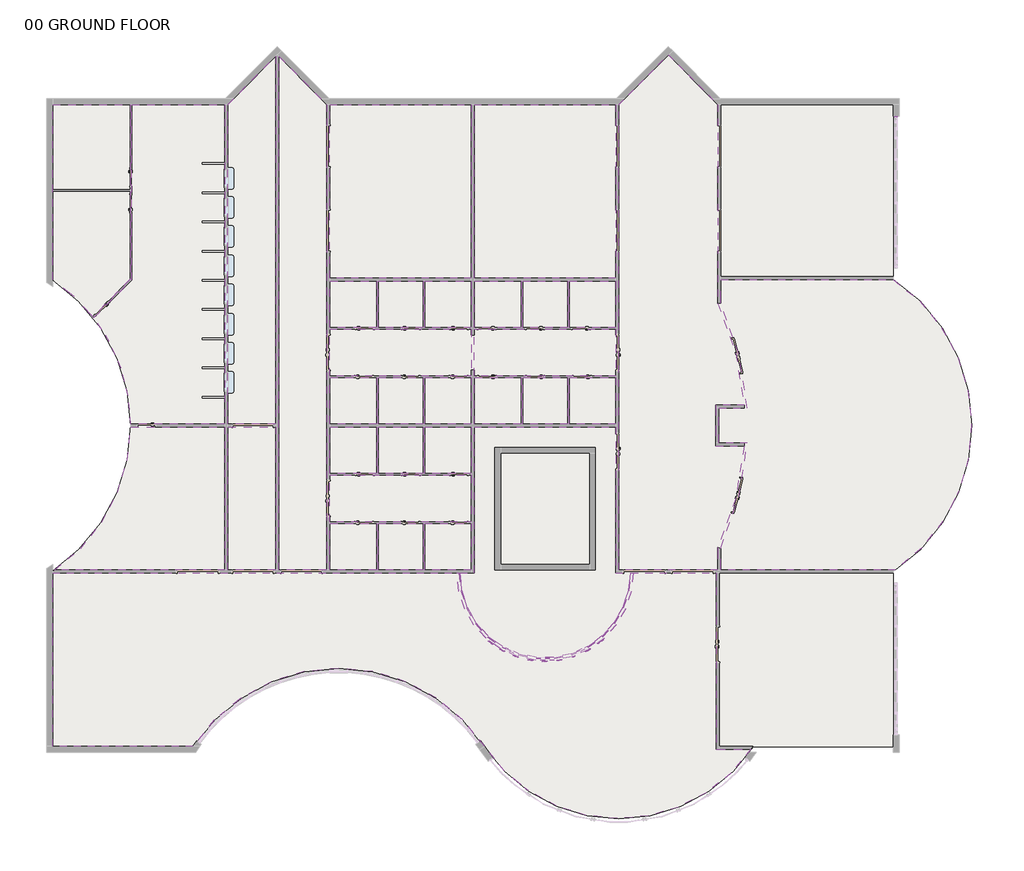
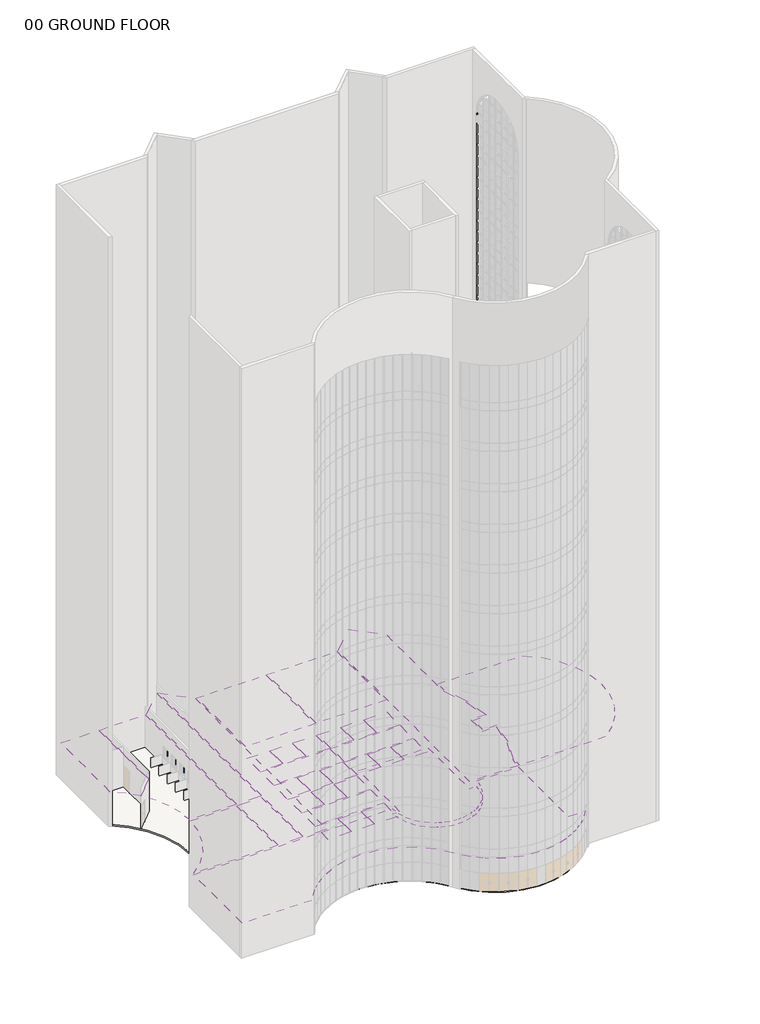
# One storey, part 33 of 33: 33 coverings, 32 members, 9 proxies, 1 furniture element, 1 slab.
"""IFC4 building model written with IfcOpenShell, lengths in millimetres."""

from ifc_helpers import new_model, si_unit, point, frame, frame_2d, origin, place, context, project, spatial, polyline, circle_curve, trimmed, segment, composite_curve, outline, extrude, transform, mapped, element, save
from components import soffit_trim1_soffit_trim_7a3ff41f, member_fd4924df, member_75074519

model = new_model("IFC4")

# Units and contexts
model_context = context("Model", 3, world=origin())
ifc_project = project(units=[si_unit("LENGTHUNIT", "METRE", prefix="MILLI")], contexts=[model_context])

# Site, building, storey
site = spatial("IfcSite", under=ifc_project)
building = spatial("IfcBuilding", under=site)
storey = spatial("IfcBuildingStorey", under=building, Name="00 GROUND FLOOR", Elevation=0.0)

# Proxies
placement = place(None, origin())
element("IfcBuildingElementProxy", 1, Name="Reception", ObjectType="Reception", at=placement, inside=storey, context=model_context, shape_type="SweptSolid", body=[
    extrude(outline(polyline([(0.0, 0.0), (5.1984394, 0.0), (10.0415167, -22.4385763), (18.7225043, -40.2066796), (34.7341037, -57.1422203), (61.5690164, -77.0831089), (148.4804247, -140.60154), (159.8113981, -107.5528678), (177.0718413, -84.4340271), (199.1042895, -70.8185833), (224.7512775, -66.2801021), (248.7026808, -70.3210764), (269.0598506, -82.4439995), (284.716088, -100.3542477), (294.5646938, -121.7571973), (299.7732864, -151.3233213), (301.5094839, -193.7230925), (301.5094839, -305.4083135), (296.3110446, -305.4083135), (296.3110446, -294.5240811), (293.7727441, -280.1471472), (286.1578427, -269.831494), (273.4257275, -265.3234724), (249.5250902, -263.8207984), (51.9843938, -263.8207984), (30.1550097, -264.9376507), (18.1133122, -268.2882073), (8.4271576, -278.7866181), (5.1984394, -294.5240811), (5.1984394, -305.4083135), (0.0, -305.4083135), (0.0, -180.6457684), (5.1984394, -180.6457684), (5.1984394, -191.9361289), (7.7367398, -206.1303052), (15.3516413, -216.2225879), (28.0837565, -220.7306096), (51.9843938, -222.2332835), (140.3578632, -222.2332835), (139.9923479, -214.3543988), (139.8705095, -207.2065447), (140.3578632, -186.0878846), (0.0, -82.0378715), (0.0, 0.0)]), holes=[polyline([(155.9531813, -222.2332835), (280.7157264, -222.2332835), (285.9141658, -185.6817566), (281.4873698, -158.2173454), (268.2069817, -136.7433234), (247.8396586, -122.8842028), (222.1520578, -118.2644959), (195.7232732, -123.9909017), (174.4320088, -141.1701194), (166.2409132, -154.0139198), (160.3901306, -169.6396976), (155.7095045, -209.237185), (155.8313429, -214.5574628), (155.9531813, -222.2332835)])]), frame((23125.4196343, 5475.0170131, 3321.9975495), z_axis=(0.6156614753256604, 0.7880107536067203, 0.0), x_axis=(0.0, 0.0, 1.0)), (0.0, 0.0, 1.0), 50.8),
])
element("IfcBuildingElementProxy", 2, Name="Reception", ObjectType="Reception", at=placement, inside=storey, context=model_context, shape_type="SweptSolid", body=[
    extrude(outline(polyline([(0.0, 0.0), (85.286896, 0.0), (117.6146909, 3.4927014), (127.6663608, 9.4830906), (134.915747, 17.7071841), (145.5563026, 51.9843938), (155.9531814, 51.9843938), (150.754742, -15.5953181), (-83.1750301, -15.5953181), (-83.1750301, -10.3968788), (-72.8593769, -10.3968788), (-57.4671228, -8.0413359), (-47.1920825, -0.9747074), (-42.9886569, 11.8995526), (-41.587515, 36.3890756), (-41.587515, 233.929772), (-44.0648963, 264.2675394), (-53.3652293, 275.3548358), (-72.8593769, 280.7157264), (-83.1750301, 280.7157264), (-83.1750301, 285.9141658), (154.4911203, 285.9141658), (181.9453782, 207.9375751), (171.5484994, 207.9375751), (156.5623735, 233.5642568), (141.9823755, 251.7994074), (130.5397169, 261.0185147), (118.6300111, 266.5824694), (79.6823286, 270.3188477), (26.0734225, 270.3188477), (8.4068512, 267.719628), (1.8681891, 260.7342251), (0.0, 236.041638), (0.0, 135.1594238), (72.7781513, 135.1594238), (100.4760861, 139.2613174), (113.390959, 150.5922907), (119.5641057, 176.7469389), (124.7625451, 176.7469389), (124.7625451, 77.9765907), (119.5641057, 77.9765907), (115.7261954, 98.7500418), (106.8116841, 112.1725747), (94.0389561, 117.716223), (72.7781513, 119.5641057), (0.0, 119.5641057), (0.0, 0.0)])), frame((23578.5803169, 5185.4432522, 3607.9117153), z_axis=(0.4932036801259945, 0.8699138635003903, 0.0), x_axis=(0.8699138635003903, -0.4932036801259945, 0.0)), (0.0, 0.0, 1.0), 50.8),
])
element("IfcBuildingElementProxy", 3, Name="Reception", ObjectType="Reception", at=placement, inside=storey, context=model_context, shape_type="SweptSolid", body=[
    extrude(outline(polyline([(0.0, 0.0), (5.1984394, 0.0), (13.4022265, -12.4275191), (23.8803309, -15.5953181), (37.2013318, -11.9401654), (69.1229986, -2.9850413), (101.5320192, 0.0), (141.8808436, -5.1375201), (178.9400306, -20.5500806), (210.5469481, -45.3137401), (234.5389642, -78.5045572), (249.6773883, -117.7263761), (254.7235296, -160.5830414), (252.8147276, -187.3773413), (247.0883217, -212.3643712), (237.5443119, -235.5441311), (224.1826983, -256.9166212), (201.6070538, -280.9746331), (174.8178305, -298.1589273), (143.8150286, -308.4695039), (108.5986477, -311.9063627), (70.0063272, -307.5303327), (37.0794934, -294.4022426), (8.8637453, -271.8316748), (-15.5953181, -239.1282114), (-8.6911407, -233.929772), (16.7832428, -262.4501162), (40.0848412, -279.6191806), (63.9956317, -288.239249), (91.2975916, -291.1126052), (122.8537432, -287.1731628), (150.754742, -275.3548358), (173.5486803, -256.1449778), (189.7836501, -230.0309425), (199.5002644, -197.7843732), (202.7391358, -160.1769133), (199.3378132, -115.2896077), (189.1338452, -78.4233315), (172.9902542, -50.034979), (151.7700622, -30.5814441), (126.6002746, -19.3418496), (98.607897, -15.5953181), (66.0871913, -20.7632979), (38.5415545, -36.2672372), (26.7359189, -48.2505538), (16.3771147, -63.5285843), (0.0, -103.9687876), (-5.1984393, -103.9687876), (0.0, 0.0)])), frame((24432.1940713, 4800.2631424, 3628.7054728), z_axis=(0.3673352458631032, 0.9300886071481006, 0.0), x_axis=(-0.9300886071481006, 0.3673352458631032, 0.0)), (0.0, 0.0, 1.0), 50.8),
])
element("IfcBuildingElementProxy", 4, Name="Reception", ObjectType="Reception", at=placement, inside=storey, context=model_context, shape_type="SweptSolid", body=[
    extrude(outline(polyline([(0.0, 0.0), (85.286896, 0.0), (117.6146909, 3.4927014), (127.6663608, 9.4830906), (134.915747, 17.7071841), (145.5563026, 51.9843938), (155.9531813, 51.9843938), (150.7547419, -15.5953181), (-83.1750301, -15.5953181), (-83.1750301, -10.3968788), (-72.8593769, -10.3968788), (-57.4671228, -8.0413359), (-47.1920826, -0.9747074), (-42.988657, 11.8995526), (-41.5875151, 36.3890756), (-41.5875151, 233.929772), (-44.0648963, 264.2675394), (-53.3652293, 275.3548358), (-72.8593769, 280.7157264), (-83.1750301, 280.7157264), (-83.1750301, 285.9141658), (154.4911203, 285.9141658), (181.9453782, 207.9375751), (171.5484994, 207.9375751), (156.5623734, 233.5642568), (141.9823755, 251.7994074), (130.5397169, 261.0185147), (118.6300111, 266.5824694), (79.6823286, 270.3188477), (26.0734225, 270.3188477), (8.4068511, 267.719628), (1.8681891, 260.7342251), (0.0, 236.041638), (0.0, 135.1594238), (72.7781513, 135.1594238), (100.4760861, 139.2613174), (113.3909589, 150.5922907), (119.5641057, 176.7469389), (124.7625451, 176.7469389), (124.7625451, 77.9765907), (119.5641057, 77.9765907), (115.7261953, 98.7500418), (106.8116841, 112.1725747), (94.0389561, 117.716223), (72.7781513, 119.5641057), (0.0, 119.5641057), (0.0, 0.0)])), frame((25051.3683397, 4654.7176495, 3607.9117153), z_axis=(0.1595257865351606, 0.9871937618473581, 0.0), x_axis=(0.9871937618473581, -0.1595257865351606, 0.0)), (0.0, 0.0, 1.0), 50.8),
])
element("IfcBuildingElementProxy", 5, Name="Reception", ObjectType="Reception", at=placement, inside=storey, context=model_context, shape_type="SweptSolid", body=[
    extrude(outline(polyline([(0.0, 0.0), (29.8318143, 1e-07), (55.338626, -2.6379951), (77.4915618, -7.8974674), (96.4748619, -15.54472), (112.2885262, -25.579753), (124.9325546, -38.0025662), (134.2202883, -52.1888808), (139.9650683, -67.5144175), (142.1668946, -83.9791765), (140.8257673, -101.5831576), (132.4634357, -125.7490216), (116.5085746, -144.926735), (95.3493792, -158.4643185), (71.3740445, -165.7097928), (41.948722, -167.0052368), (4.4395635, -162.6927296), (-108.9252234, -143.2766611), (-108.047661, -138.152829), (-97.2395775, -140.0039372), (-82.560422, -139.9427865), (-71.0272658, -134.1922978), (-64.614735, -122.3730713), (-59.1589419, -99.0588387), (-25.81157, 95.646784), (-23.1872869, 117.344559), (-24.3368759, 129.7584844), (-33.0694845, 141.0813175), (-48.0960822, 146.9306647), (-58.9041656, 148.7817729), (-58.0266032, 153.9056051), (64.945369, 132.8441071), (64.0678065, 127.7202749), (53.0996034, 129.598807), (38.5605526, 129.5136605), (27.2875911, 123.718608), (20.6949254, 111.9302333), (15.1790874, 88.6262847), (0.0, 0.0)]), holes=[polyline([(-2.2487537, -13.1298199), (-23.5982019, -137.7830496), (7.7127298, -147.4309284), (27.5320832, -148.6930878), (45.8393667, -145.431643), (61.919183, -137.4931643), (75.0561353, -124.724222), (84.6348464, -108.4924688), (90.0399387, -90.1655575), (89.8280122, -63.6761878), (79.4841985, -40.890472), (61.5621204, -24.0999583), (38.6154002, -15.596195), (21.2906196, -13.7826839), (-2.2487537, -13.1298199)])]), frame((25807.379333, 4584.0153069, 3463.8986994), z_axis=(0.012753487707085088, 0.999918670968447, 0.0), x_axis=(0.9855679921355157, -0.01257045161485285, -0.16881266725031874)), (0.0, 0.0, 1.0), 50.8),
])
element("IfcBuildingElementProxy", 6, Name="Reception", ObjectType="Reception", at=placement, inside=storey, context=model_context, shape_type="SweptSolid", body=[
    extrude(outline(polyline([(0.0, 0.0), (244.3266509, 0.0), (249.5250902, -67.5797119), (240.9964006, -67.5797119), (237.7879888, -49.1516504), (231.2493268, -34.9676273), (222.2129771, -24.8651914), (211.5115023, -18.6818915), (181.6204759, -15.5953181), (145.5563026, -15.5953181), (145.5563026, -249.5250901), (146.7543805, -271.6387639), (150.3486139, -284.0459766), (160.8470247, -293.2447776), (176.7469389, -296.3110445), (187.1438177, -296.3110445), (187.1438177, -301.5094839), (62.3812726, -301.5094839), (62.3812726, -296.3110445), (72.6157001, -296.3110445), (87.6018262, -293.8336633), (98.1205433, -286.4015195), (102.5067265, -273.5272595), (103.9687877, -249.5250901), (103.9687877, -15.5953181), (60.188181, -15.5953181), (42.7348269, -17.1284516), (29.0381575, -21.727852), (18.4077551, -29.5559707), (10.1532019, -40.7752588), (3.2490246, -67.5797119), (-5.1984393, -67.5797119), (0.0, 0.0)])), frame((26735.7854519, 4657.389303, 3623.5070334), z_axis=(-0.12653241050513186, 0.9919624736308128, 0.0), x_axis=(-0.9919624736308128, -0.12653241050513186, 0.0)), (0.0, 0.0, 1.0), 50.8),
])
element("IfcBuildingElementProxy", 7, Name="Reception", ObjectType="Reception", at=placement, inside=storey, context=model_context, shape_type="SweptSolid", body=[
    extrude(outline(polyline([(0.0, 0.0), (10.3968787, 0.0), (12.4275191, -19.6565988), (21.4435624, -39.6381003), (41.587515, -59.6196016), (249.5250901, -59.6196016), (271.6387639, -58.4215238), (284.0459766, -54.8272903), (293.2447776, -44.2679603), (296.3110445, -28.1852885), (296.3110445, -18.0320865), (301.5094839, -18.0320865), (301.5094839, -122.0008742), (296.3110445, -122.0008742), (296.3110445, -111.6039953), (293.8336633, -96.699095), (286.4015195, -86.2616034), (273.5272595, -81.8754202), (249.5250901, -80.4133591), (65.9551996, -80.4133591), (306.3830208, -285.020684), (306.3830208, -293.5493737), (51.9843937, -293.5493737), (29.87072, -294.7474515), (17.4635072, -298.341685), (8.2647063, -308.8400958), (5.1984393, -324.74001), (5.1984393, -335.1368887), (0.0, -335.1368887), (0.0, -231.1681012), (5.1984393, -231.1681012), (5.1984393, -241.321303), (7.6758206, -256.3480419), (15.1079644, -266.663695), (27.9822244, -271.2326358), (51.9843937, -272.7556161), (231.817906, -272.7556161), (0.0, -77.2455602), (0.0, 0.0)])), frame((28650.8184813, 5513.7848467, 3623.5070334), z_axis=(-0.6156614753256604, 0.7880107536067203, 0.0), x_axis=(0.0, 0.0, -1.0)), (0.0, 0.0, 1.0), 50.8),
])
element("IfcBuildingElementProxy", 8, Name="Reception", ObjectType="Reception", at=placement, inside=storey, context=model_context, shape_type="SweptSolid", body=[
    extrude(outline(polyline([(0.0, 0.0), (29.2156802, 1e-07), (56.7214954, -5.0231293), (82.5174457, -15.0693881), (106.6035311, -30.1387762), (130.3874075, -52.3246393), (148.2200006, -78.2780931), (160.1013101, -107.9991373), (166.0313361, -141.4877719), (166.0970204, -174.7530107), (160.5069957, -205.2608551), (149.2612621, -233.0113051), (132.3598193, -258.0043609), (111.1354982, -278.9977718), (86.9211293, -294.7492871), (59.7167128, -305.258907), (29.5222485, -310.5266315), (-0.877937, -310.2511347), (-29.4280111, -304.191936), (-56.127974, -292.3490356), (-80.9778256, -274.7224333), (-102.2656861, -252.5344155), (-118.279676, -227.0072684), (-129.0197952, -198.1409922), (-134.4860436, -165.9355867), (-134.3802751, -134.2046882), (-128.5733584, -104.7383381), (-117.0652936, -77.5365366), (-99.8560806, -52.5992837), (-78.5702351, -31.4580944), (-54.8322733, -15.6444841), (-28.642195, -5.1584526), (0.0, 0.0)]), holes=[polyline([(5.5880562, -15.1828928), (-15.0383417, -18.785444), (-32.9650654, -25.9220888), (-48.1921147, -36.5928276), (-60.7194899, -50.7976601), (-72.5113527, -73.1377532), (-80.0223962, -100.0108088), (-83.25262, -131.4168269), (-82.2020244, -167.3558077), (-77.694579, -200.0972324), (-70.0607297, -227.8194778), (-59.3004765, -250.5225441), (-45.4138194, -268.2064311), (-29.1936941, -281.2583062), (-11.4330366, -290.0653365), (7.8681531, -294.6275221), (28.7098751, -294.944863), (47.8034003, -291.4703408), (64.612088, -284.4270768), (79.1359383, -273.8150708), (91.3749512, -259.6343229), (103.6161156, -236.6963327), (111.4905839, -209.9049972), (114.998356, -179.2603162), (114.1394319, -144.7622899), (109.4092879, -111.4892836), (101.1614277, -82.8198434), (89.3958512, -58.7539692), (74.1125585, -39.2916612), (59.5832319, -27.4536446), (43.3193727, -19.489511), (25.3209808, -15.3992605), (5.5880562, -15.1828928)])]), frame((28115.5020293, 5166.9971925, 3628.7054728), z_axis=(-0.4932036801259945, 0.8699138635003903, 0.0), x_axis=(-0.8668954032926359, -0.4914923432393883, -0.08323242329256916)), (0.0, 0.0, 1.0), 50.8),
])
element("IfcBuildingElementProxy", 9, Name="Reception", ObjectType="Reception", at=placement, inside=storey, context=model_context, shape_type="SweptSolid", body=[
    extrude(outline(polyline([(0.0, 0.0), (10.4781044, 0.0), (29.8910264, 5.5233418), (38.8258441, 15.4328669), (41.587515, 46.7859544), (41.587515, 244.3266508), (40.2472924, 267.2525807), (36.2266245, 279.8222446), (25.7688264, 288.290015), (10.4781044, 291.1126052), (0.0, 291.1126052), (0.0, 296.3110445), (124.7625451, 296.3110445), (124.7625451, 291.1126052), (114.4468919, 291.1126052), (94.790293, 285.5892633), (85.936701, 275.6797383), (83.1750301, 244.3266508), (83.1750301, 46.7859544), (84.4543335, 23.8600244), (88.2922438, 11.2903605), (98.9327994, 2.8225901), (114.4468919, 0.0), (124.7625451, 0.0), (124.7625451, -5.1984394), (0.0, -5.1984394), (0.0, 0.0)])), frame((27431.7081741, 4854.4832526, 3327.1959889), z_axis=(-0.3673352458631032, 0.9300886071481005, 0.0), x_axis=(-0.9300886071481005, -0.3673352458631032, 0.0)), (0.0, 0.0, 1.0), 50.8),
])

# Coverings
element("IfcCovering", 10, ObjectType="2' x 4' ACT System", at=placement, inside=storey, context=model_context, shape_type="SweptSolid", body=[
    extrude(outline(composite_curve([segment(polyline([(155.575, 9221.7875), (21367.7436877, 9221.7875)]), True, "CONTINUOUS"), segment(trimmed(circle_curve(frame_2d((25863.3087757, 9221.7875)), 4495.5650881), [point((21367.7436877, 9221.7875))], [point((30358.8738638, 9221.7875))], True, "CARTESIAN"), True, "CONTINUOUS"), segment(polyline([(30358.8738638, 9221.7875), (34803.3714577, 9221.7875), (34803.3714577, 0.0), (36607.9065696, 0.0)]), True, "CONTINUOUS"), segment(trimmed(circle_curve(frame_2d((29712.2025257, 4799.7966199)), 8401.7130309), [point((36607.9065696, 0.0))], [point((22710.775, 155.575))], False, "CARTESIAN"), True, "CONTINUOUS"), segment(trimmed(circle_curve(frame_2d((15090.775, -4898.9611805)), 9144.0), [point((22710.775, 155.575))], [point((7470.775, 155.575))], True, "CARTESIAN"), True, "CONTINUOUS"), segment(polyline([(7470.775, 155.575), (155.575, 155.575), (155.575, 9221.7875)]), True, "CONTINUOUS")], self_intersect=False)), frame((0.0, 0.0, 3657.6), z_axis=(0.0, 0.0, 1.0), x_axis=(1.0, 0.0, 0.0)), (0.0, 0.0, 1.0), 57.15),
])
element("IfcCovering", 11, ObjectType="2' x 4' ACT System", at=placement, inside=storey, context=model_context, shape_type="SweptSolid", body=[
    extrude(outline(polyline([(17066.1775257, 16997.3625), (14627.7775257, 16997.3625), (14627.7775257, 19435.7625), (17066.1775257, 19435.7625), (17066.1775257, 16997.3625)])), frame((0.0, 0.0, 2438.4), z_axis=(0.0, 0.0, 1.0), x_axis=(1.0, 0.0, 0.0)), (0.0, 0.0, 1.0), 57.15),
])
element("IfcCovering", 12, ObjectType="2' x 4' ACT System", at=placement, inside=storey, context=model_context, shape_type="SweptSolid", body=[
    extrude(outline(polyline([(19496.6400257, 19435.7625), (19496.6400257, 16997.3625), (17145.5525257, 16997.3625), (17145.5525257, 19435.7625), (19496.6400257, 19435.7625)])), frame((0.0, 0.0, 2438.4), z_axis=(0.0, 0.0, 1.0), x_axis=(1.0, 0.0, 0.0)), (0.0, 0.0, 1.0), 57.15),
])
element("IfcCovering", 13, ObjectType="2' x 4' ACT System", at=placement, inside=storey, context=model_context, shape_type="SweptSolid", body=[
    extrude(outline(polyline([(22014.4150257, 19435.7625), (22014.4150257, 16997.3625), (19576.0150257, 16997.3625), (19576.0150257, 19435.7625), (22014.4150257, 19435.7625)])), frame((0.0, 0.0, 2438.4), z_axis=(0.0, 0.0, 1.0), x_axis=(1.0, 0.0, 0.0)), (0.0, 0.0, 1.0), 57.15),
])
element("IfcCovering", 14, ObjectType="2' x 4' ACT System", at=placement, inside=storey, context=model_context, shape_type="SweptSolid", body=[
    extrude(outline(polyline([(24608.3900257, 19435.7625), (24608.3900257, 16997.3625), (22169.9900257, 16997.3625), (22169.9900257, 19435.7625), (24608.3900257, 19435.7625)])), frame((0.0, 0.0, 2438.4), z_axis=(0.0, 0.0, 1.0), x_axis=(1.0, 0.0, 0.0)), (0.0, 0.0, 1.0), 57.15),
])
element("IfcCovering", 15, ObjectType="2' x 4' ACT System", at=placement, inside=storey, context=model_context, shape_type="SweptSolid", body=[
    extrude(outline(polyline([(27038.8525257, 16997.3625), (24687.7650257, 16997.3625), (24687.7650257, 19435.7625), (27038.8525257, 19435.7625), (27038.8525257, 16997.3625)])), frame((0.0, 0.0, 2438.4), z_axis=(0.0, 0.0, 1.0), x_axis=(1.0, 0.0, 0.0)), (0.0, 0.0, 1.0), 57.15),
])
element("IfcCovering", 16, ObjectType="2' x 4' ACT System", at=placement, inside=storey, context=model_context, shape_type="SweptSolid", body=[
    extrude(outline(polyline([(29556.6275257, 19435.7625), (29556.6275257, 16997.3625), (27118.2275257, 16997.3625), (27118.2275257, 19435.7625), (29556.6275257, 19435.7625)])), frame((0.0, 0.0, 2438.4), z_axis=(0.0, 0.0, 1.0), x_axis=(1.0, 0.0, 0.0)), (0.0, 0.0, 1.0), 57.15),
])
element("IfcCovering", 17, ObjectType="2' x 4' ACT System", at=placement, inside=storey, context=model_context, shape_type="SweptSolid", body=[
    extrude(outline(polyline([(14627.7775257, 14403.3875), (14627.7775257, 16841.7875), (17066.1775257, 16841.7875), (17066.1775257, 14403.3875), (14627.7775257, 14403.3875)])), frame((0.0, 0.0, 2438.4), z_axis=(0.0, 0.0, 1.0), x_axis=(1.0, 0.0, 0.0)), (0.0, 0.0, 1.0), 57.15),
])
element("IfcCovering", 18, ObjectType="2' x 4' ACT System", at=placement, inside=storey, context=model_context, shape_type="SweptSolid", body=[
    extrude(outline(polyline([(17145.5525257, 14403.3875), (17145.5525257, 16841.7875), (19496.6400257, 16841.7875), (19496.6400257, 14403.3875), (17145.5525257, 14403.3875)])), frame((0.0, 0.0, 2438.4), z_axis=(0.0, 0.0, 1.0), x_axis=(1.0, 0.0, 0.0)), (0.0, 0.0, 1.0), 57.15),
])
element("IfcCovering", 19, ObjectType="2' x 4' ACT System", at=placement, inside=storey, context=model_context, shape_type="SweptSolid", body=[
    extrude(outline(polyline([(19576.0150257, 16841.7875), (22014.4150257, 16841.7875), (22014.4150257, 14403.3875), (19576.0150257, 14403.3875), (19576.0150257, 16841.7875)])), frame((0.0, 0.0, 2438.4), z_axis=(0.0, 0.0, 1.0), x_axis=(1.0, 0.0, 0.0)), (0.0, 0.0, 1.0), 57.15),
])
element("IfcCovering", 20, ObjectType="2' x 4' ACT System", at=placement, inside=storey, context=model_context, shape_type="SweptSolid", body=[
    extrude(outline(polyline([(14627.7775257, 11895.1375), (14627.7775257, 14324.0125), (22014.4150257, 14324.0125), (22014.4150257, 11895.1375), (14627.7775257, 11895.1375)])), frame((0.0, 0.0, 2438.4), z_axis=(0.0, 0.0, 1.0), x_axis=(1.0, 0.0, 0.0)), (0.0, 0.0, 1.0), 57.15),
])
element("IfcCovering", 21, ObjectType="2' x 4' ACT System", at=placement, inside=storey, context=model_context, shape_type="SweptSolid", body=[
    extrude(outline(polyline([(14627.7775257, 9377.3625), (14627.7775257, 11815.7625), (17066.1775257, 11815.7625), (17066.1775257, 9377.3625), (14627.7775257, 9377.3625)])), frame((0.0, 0.0, 2438.4), z_axis=(0.0, 0.0, 1.0), x_axis=(1.0, 0.0, 0.0)), (0.0, 0.0, 1.0), 57.15),
])
element("IfcCovering", 22, ObjectType="2' x 4' ACT System", at=placement, inside=storey, context=model_context, shape_type="SweptSolid", body=[
    extrude(outline(polyline([(17145.5525257, 11815.7625), (19496.6400257, 11815.7625), (19496.6400257, 9377.3625), (17145.5525257, 9377.3625), (17145.5525257, 11815.7625)])), frame((0.0, 0.0, 2438.4), z_axis=(0.0, 0.0, 1.0), x_axis=(1.0, 0.0, 0.0)), (0.0, 0.0, 1.0), 57.15),
])
element("IfcCovering", 23, ObjectType="2' x 4' ACT System", at=placement, inside=storey, context=model_context, shape_type="SweptSolid", body=[
    extrude(outline(polyline([(19576.0150257, 11815.7625), (22014.4150257, 11815.7625), (22014.4150257, 9377.3625), (19576.0150257, 9377.3625), (19576.0150257, 11815.7625)])), frame((0.0, 0.0, 2438.4), z_axis=(0.0, 0.0, 1.0), x_axis=(1.0, 0.0, 0.0)), (0.0, 0.0, 1.0), 57.15),
])
element("IfcCovering", 24, ObjectType="2' x 4' ACT System", at=placement, inside=storey, context=model_context, shape_type="SweptSolid", body=[
    extrude(outline(polyline([(11963.6762629, 36192.1012629), (14472.2025257, 33683.575), (14472.2025257, 9377.3625), (11963.6762629, 9377.3625), (11963.6762629, 36192.1012629)])), frame((0.0, 0.0, 3657.6), z_axis=(0.0, 0.0, 1.0), x_axis=(1.0, 0.0, 0.0)), (0.0, 0.0, 1.0), 57.15),
])
element("IfcCovering", 25, ObjectType="2' x 4' ACT System", at=placement, inside=storey, context=model_context, shape_type="SweptSolid", body=[
    extrude(outline(polyline([(9299.575, 9377.3625), (9299.575, 16841.7875), (11808.1012629, 16841.7875), (11808.1012629, 9377.3625), (9299.575, 9377.3625)])), frame((0.0, 0.0, 3657.6), z_axis=(0.0, 0.0, 1.0), x_axis=(1.0, 0.0, 0.0)), (0.0, 0.0, 1.0), 57.15),
])
element("IfcCovering", 26, ObjectType="2' x 4' ACT System", at=placement, inside=storey, context=model_context, shape_type="SweptSolid", body=[
    extrude(outline(polyline([(9299.575, 16997.3625), (9299.575, 33683.575), (11808.1012629, 36192.1012629), (11808.1012629, 16997.3625), (9299.575, 16997.3625)])), frame((0.0, 0.0, 3657.6), z_axis=(0.0, 0.0, 1.0), x_axis=(1.0, 0.0, 0.0)), (0.0, 0.0, 1.0), 57.15),
])
element("IfcCovering", 27, ObjectType="2' x 4' ACT System", at=placement, inside=storey, context=model_context, shape_type="SweptSolid", body=[
    extrude(outline(composite_curve([segment(trimmed(circle_curve(frame_2d((-4898.9611805, 16919.575)), 9144.0), [point((270.9292057, 9377.3625))], [point((4244.7079465, 16841.7875))], True, "CARTESIAN"), True, "CONTINUOUS"), segment(polyline([(4244.7079465, 16841.7875), (9144.0, 16841.7875), (9144.0, 9377.3625), (270.9292057, 9377.3625)]), True, "CONTINUOUS")], self_intersect=False)), frame((0.0, 0.0, 3657.6), z_axis=(0.0, 0.0, 1.0), x_axis=(1.0, 0.0, 0.0)), (0.0, 0.0, 1.0), 57.15),
])
element("IfcCovering", 28, ObjectType="2' x 4' ACT System", at=placement, inside=storey, context=model_context, shape_type="SweptSolid", body=[
    extrude(outline(composite_curve([segment(polyline([(4288.3974132, 24523.1358992), (4288.3974132, 33683.575), (9144.0, 33683.575), (9144.0, 16997.3625), (4244.7079465, 16997.3625)]), True, "CONTINUOUS"), segment(trimmed(circle_curve(frame_2d((-4898.9611805, 16919.575)), 9144.0), [point((4244.7079465, 16997.3625))], [point((2310.04482, 22544.783306))], True, "CARTESIAN"), True, "CONTINUOUS"), segment(polyline([(2310.04482, 22544.783306), (4288.3974132, 24523.1358992)]), True, "CONTINUOUS")], self_intersect=False)), frame((0.0, 0.0, 3657.6), z_axis=(0.0, 0.0, 1.0), x_axis=(1.0, 0.0, 0.0)), (0.0, 0.0, 1.0), 57.15),
])
element("IfcCovering", 29, ObjectType="2' x 4' ACT System", at=placement, inside=storey, context=model_context, shape_type="SweptSolid", body=[
    extrude(outline(composite_curve([segment(polyline([(155.575, 24539.575), (155.575, 33683.575), (4209.0224132, 33683.575), (4209.0224132, 24556.0141008), (2260.5955581, 22607.5872456)]), True, "CONTINUOUS"), segment(trimmed(circle_curve(frame_2d((-4898.9611805, 16919.575)), 9144.0), [point((2260.5955581, 22607.5872456))], [point((155.575, 24539.575))], True, "CARTESIAN"), True, "CONTINUOUS")], self_intersect=False)), frame((0.0, 0.0, 3657.6), z_axis=(0.0, 0.0, 1.0), x_axis=(1.0, 0.0, 0.0)), (0.0, 0.0, 1.0), 57.15),
])
element("IfcCovering", 30, ObjectType="2' x 4' ACT System", at=placement, inside=storey, context=model_context, shape_type="SweptSolid", body=[
    extrude(outline(polyline([(14627.7775257, 24617.3625), (14627.7775257, 33683.575), (22014.4150257, 33683.575), (22014.4150257, 24617.3625), (14627.7775257, 24617.3625)])), frame((0.0, 0.0, 3657.6), z_axis=(0.0, 0.0, 1.0), x_axis=(1.0, 0.0, 0.0)), (0.0, 0.0, 1.0), 57.15),
])
element("IfcCovering", 31, ObjectType="2' x 4' ACT System", at=placement, inside=storey, context=model_context, shape_type="SweptSolid", body=[
    extrude(outline(polyline([(22169.9900257, 33683.575), (29556.6275257, 33683.575), (29556.6275257, 24617.3625), (22169.9900257, 24617.3625), (22169.9900257, 33683.575)])), frame((0.0, 0.0, 3657.6), z_axis=(0.0, 0.0, 1.0), x_axis=(1.0, 0.0, 0.0)), (0.0, 0.0, 1.0), 57.15),
])
element("IfcCovering", 32, ObjectType="2' x 4' ACT System", at=placement, inside=storey, context=model_context, shape_type="SweptSolid", body=[
    extrude(outline(polyline([(14627.7775257, 22023.3875), (14627.7775257, 24461.7875), (17066.1775257, 24461.7875), (17066.1775257, 22023.3875), (14627.7775257, 22023.3875)])), frame((0.0, 0.0, 2438.4), z_axis=(0.0, 0.0, 1.0), x_axis=(1.0, 0.0, 0.0)), (0.0, 0.0, 1.0), 57.15),
])
element("IfcCovering", 33, ObjectType="2' x 4' ACT System", at=placement, inside=storey, context=model_context, shape_type="SweptSolid", body=[
    extrude(outline(polyline([(17145.5525257, 22023.3875), (17145.5525257, 24461.7875), (19496.6400257, 24461.7875), (19496.6400257, 22023.3875), (17145.5525257, 22023.3875)])), frame((0.0, 0.0, 2438.4), z_axis=(0.0, 0.0, 1.0), x_axis=(1.0, 0.0, 0.0)), (0.0, 0.0, 1.0), 57.15),
])
element("IfcCovering", 34, ObjectType="2' x 4' ACT System", at=placement, inside=storey, context=model_context, shape_type="SweptSolid", body=[
    extrude(outline(polyline([(22014.4150257, 24461.7875), (22014.4150257, 22023.3875), (19576.0150257, 22023.3875), (19576.0150257, 24461.7875), (22014.4150257, 24461.7875)])), frame((0.0, 0.0, 2438.4), z_axis=(0.0, 0.0, 1.0), x_axis=(1.0, 0.0, 0.0)), (0.0, 0.0, 1.0), 57.15),
])
element("IfcCovering", 35, ObjectType="2' x 4' ACT System", at=placement, inside=storey, context=model_context, shape_type="SweptSolid", body=[
    extrude(outline(polyline([(24608.3900257, 22023.3875), (22169.9900257, 22023.3875), (22169.9900257, 24461.7875), (24608.3900257, 24461.7875), (24608.3900257, 22023.3875)])), frame((0.0, 0.0, 2438.4), z_axis=(0.0, 0.0, 1.0), x_axis=(1.0, 0.0, 0.0)), (0.0, 0.0, 1.0), 57.15),
])
element("IfcCovering", 36, ObjectType="2' x 4' ACT System", at=placement, inside=storey, context=model_context, shape_type="SweptSolid", body=[
    extrude(outline(polyline([(24687.7650257, 24461.7875), (27038.8525257, 24461.7875), (27038.8525257, 22023.3875), (24687.7650257, 22023.3875), (24687.7650257, 24461.7875)])), frame((0.0, 0.0, 2438.4), z_axis=(0.0, 0.0, 1.0), x_axis=(1.0, 0.0, 0.0)), (0.0, 0.0, 1.0), 57.15),
])
element("IfcCovering", 37, ObjectType="2' x 4' ACT System", at=placement, inside=storey, context=model_context, shape_type="SweptSolid", body=[
    extrude(outline(polyline([(29556.6275257, 24461.7875), (29556.6275257, 22023.3875), (27118.2275257, 22023.3875), (27118.2275257, 24461.7875), (29556.6275257, 24461.7875)])), frame((0.0, 0.0, 2438.4), z_axis=(0.0, 0.0, 1.0), x_axis=(1.0, 0.0, 0.0)), (0.0, 0.0, 1.0), 57.15),
])
element("IfcCovering", 38, ObjectType="2' x 4' ACT System", at=placement, inside=storey, context=model_context, shape_type="SweptSolid", body=[
    extrude(outline(polyline([(29556.6275257, 21944.0125), (29556.6275257, 19515.1375), (22169.9900257, 19515.1375), (22169.9900257, 21944.0125), (29556.6275257, 21944.0125)])), frame((0.0, 0.0, 2438.4), z_axis=(0.0, 0.0, 1.0), x_axis=(1.0, 0.0, 0.0)), (0.0, 0.0, 1.0), 57.15),
])
element("IfcCovering", 39, ObjectType="2' x 4' ACT System", at=placement, inside=storey, context=model_context, shape_type="SweptSolid", body=[
    extrude(outline(polyline([(14627.7775257, 19515.1375), (14627.7775257, 21944.0125), (22014.4150257, 21944.0125), (22014.4150257, 19515.1375), (14627.7775257, 19515.1375)])), frame((0.0, 0.0, 2438.4), z_axis=(0.0, 0.0, 1.0), x_axis=(1.0, 0.0, 0.0)), (0.0, 0.0, 1.0), 57.15),
])
element("IfcCovering", 40, ObjectType="2' x 4' ACT System", at=placement, inside=storey, context=model_context, shape_type="SweptSolid", body=[
    extrude(outline(composite_curve([segment(polyline([(29712.2025257, 9377.3625), (29712.2025257, 33683.575), (32298.5162886, 36269.8887629), (34884.8300515, 33683.575), (34884.8300515, 23286.7810764)]), True, "CONTINUOUS"), segment(trimmed(circle_curve(frame_2d((21125.7990959, 16916.4)), 15162.2125), [point((34884.8300515, 23286.7810764))], [point((36250.2111967, 17986.375))], False, "CARTESIAN"), True, "CONTINUOUS"), segment(polyline([(36250.2111967, 17986.375), (34783.7261452, 17986.375), (34783.7261452, 15846.425), (36250.2111967, 15846.425)]), True, "CONTINUOUS"), segment(trimmed(circle_curve(frame_2d((21125.7990959, 16916.4)), 15162.2125), [point((36250.2111967, 15846.425))], [point((34884.8300515, 10546.0189236))], False, "CARTESIAN"), True, "CONTINUOUS"), segment(polyline([(34884.8300515, 10546.0189236), (34884.8300515, 9377.3625), (29712.2025257, 9377.3625)]), True, "CONTINUOUS")], self_intersect=False)), frame((0.0, 0.0, 3657.6), z_axis=(0.0, 0.0, 1.0), x_axis=(1.0, 0.0, 0.0)), (0.0, 0.0, 1.0), 57.15),
])
element("IfcCovering", 41, ObjectType="2' x 4' ACT System", at=placement, inside=storey, context=model_context, shape_type="SweptSolid", body=[
    extrude(outline(composite_curve([segment(polyline([(35040.4050515, 24539.575), (44028.8300515, 24539.575)]), True, "CONTINUOUS"), segment(trimmed(circle_curve(frame_2d((38974.293871, 16919.575)), 9144.0), [point((44028.8300515, 24539.575))], [point((44144.1842571, 9377.3625))], False, "CARTESIAN"), True, "CONTINUOUS"), segment(polyline([(44144.1842571, 9377.3625), (35040.4050515, 9377.3625), (35040.4050515, 10511.8426386)]), True, "CONTINUOUS"), segment(trimmed(circle_curve(frame_2d((21125.7990959, 16916.4)), 15317.7875), [point((35040.4050515, 10511.8426386))], [point((36416.2695443, 16002.0))], True, "CARTESIAN"), True, "CONTINUOUS"), segment(polyline([(36416.2695443, 16002.0), (34939.3011452, 16002.0), (34939.3011452, 17830.8), (36416.2695443, 17830.8)]), True, "CONTINUOUS"), segment(trimmed(circle_curve(frame_2d((21125.7990959, 16916.4)), 15317.7875), [point((36416.2695443, 17830.8))], [point((35040.4050515, 23320.9573614))], True, "CARTESIAN"), True, "CONTINUOUS"), segment(polyline([(35040.4050515, 23320.9573614), (35040.4050515, 24539.575)]), True, "CONTINUOUS")], self_intersect=False)), frame((0.0, 0.0, 3657.6), z_axis=(0.0, 0.0, 1.0), x_axis=(1.0, 0.0, 0.0)), (0.0, 0.0, 1.0), 57.15),
])
element("IfcCovering", 42, ObjectType="GWB on Mtl. Stud", at=placement, inside=storey, context=model_context, shape_type="SweptSolid", body=[
    extrude(outline(composite_curve([segment(polyline([(29556.6275257, 9221.7875), (30296.9613638, 9221.7875)]), True, "CONTINUOUS"), segment(trimmed(circle_curve(frame_2d((25863.3087757, 9221.7875)), 4433.6525881), [point((30296.9613638, 9221.7875))], [point((21429.6561877, 9221.7875))], False, "CARTESIAN"), True, "CONTINUOUS"), segment(polyline([(21429.6561877, 9221.7875), (22169.9900257, 9221.7875), (22169.9900257, 16841.7875), (29556.6275257, 16841.7875), (29556.6275257, 9221.7875)]), True, "CONTINUOUS")], self_intersect=False)), frame((0.0, 0.0, 3048.0), z_axis=(0.0, 0.0, 1.0), x_axis=(1.0, 0.0, 0.0)), (0.0, 0.0, 1.0), 107.95),
])

# Furniture
soffit_trim1_soffit_trim_shape = soffit_trim1_soffit_trim_7a3ff41f(model_context)
element("IfcFurniture", 43, ObjectType="Soffit Trim1 : Soffit Trim", at=placement, inside=storey, context=model_context, shape_type="MappedRepresentation", body=[
    mapped(soffit_trim1_soffit_trim_shape, transform((0.0, 0.0, 0.0), x_axis=(1.0, 0.0, 0.0), y_axis=(0.0, 1.0, 0.0), z_axis=(0.0, 0.0, 1.0))),
])

# Members
member_shape = member_fd4924df(model_context)
element("IfcMember", 44, ObjectType="Rectangular Mullion : 2.5\" x 5\" rectangular", at=placement, inside=storey, context=model_context, shape_type="MappedRepresentation", body=[
    mapped(member_shape, transform((44184.4050515, 33062.2345297, 59740.8), x_axis=(0.0, 0.9970370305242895, 0.07692307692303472), y_axis=(-1.0, 0.0, 0.0), z_axis=(0.0, -0.07692307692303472, 0.9970370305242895))),
])
member_2_shape = member_75074519(model_context)
element("IfcMember", 45, ObjectType="Rectangular Mullion : 2.5\" x 5\" rectangular", at=placement, inside=storey, context=model_context, shape_type="MappedRepresentation", body=[
    mapped(member_2_shape, transform((44184.4050515, 33073.975, 21945.6), x_axis=(0.0, 1.0, 0.0), y_axis=(-1.0, 0.0, 0.0), z_axis=(0.0, 0.0, 1.0))),
])
element("IfcMember", 46, ObjectType="Rectangular Mullion : 2.5\" x 5\" rectangular", at=placement, inside=storey, context=model_context, shape_type="MappedRepresentation", body=[
    mapped(member_2_shape, transform((44184.4050515, 33073.975, 23164.8), x_axis=(0.0, 1.0, 0.0), y_axis=(-1.0, 0.0, 0.0), z_axis=(0.0, 0.0, 1.0))),
])
element("IfcMember", 47, ObjectType="Rectangular Mullion : 2.5\" x 5\" rectangular", at=placement, inside=storey, context=model_context, shape_type="MappedRepresentation", body=[
    mapped(member_2_shape, transform((44184.4050515, 33073.975, 24384.0), x_axis=(0.0, 1.0, 0.0), y_axis=(-1.0, 0.0, 0.0), z_axis=(0.0, 0.0, 1.0))),
])
element("IfcMember", 48, ObjectType="Rectangular Mullion : 2.5\" x 5\" rectangular", at=placement, inside=storey, context=model_context, shape_type="MappedRepresentation", body=[
    mapped(member_2_shape, transform((44184.4050515, 33073.975, 25603.2), x_axis=(0.0, 1.0, 0.0), y_axis=(-1.0, 0.0, 0.0), z_axis=(0.0, 0.0, 1.0))),
])
element("IfcMember", 49, ObjectType="Rectangular Mullion : 2.5\" x 5\" rectangular", at=placement, inside=storey, context=model_context, shape_type="MappedRepresentation", body=[
    mapped(member_2_shape, transform((44184.4050515, 33073.975, 26822.4), x_axis=(0.0, 1.0, 0.0), y_axis=(-1.0, 0.0, 0.0), z_axis=(0.0, 0.0, 1.0))),
])
element("IfcMember", 50, ObjectType="Rectangular Mullion : 2.5\" x 5\" rectangular", at=placement, inside=storey, context=model_context, shape_type="MappedRepresentation", body=[
    mapped(member_2_shape, transform((44184.4050515, 33073.975, 28041.6), x_axis=(0.0, 1.0, 0.0), y_axis=(-1.0, 0.0, 0.0), z_axis=(0.0, 0.0, 1.0))),
])
element("IfcMember", 51, ObjectType="Rectangular Mullion : 2.5\" x 5\" rectangular", at=placement, inside=storey, context=model_context, shape_type="MappedRepresentation", body=[
    mapped(member_2_shape, transform((44184.4050515, 33073.975, 29260.8), x_axis=(0.0, 1.0, 0.0), y_axis=(-1.0, 0.0, 0.0), z_axis=(0.0, 0.0, 1.0))),
])
element("IfcMember", 52, ObjectType="Rectangular Mullion : 2.5\" x 5\" rectangular", at=placement, inside=storey, context=model_context, shape_type="MappedRepresentation", body=[
    mapped(member_2_shape, transform((44184.4050515, 33073.975, 30480.0), x_axis=(0.0, 1.0, 0.0), y_axis=(-1.0, 0.0, 0.0), z_axis=(0.0, 0.0, 1.0))),
])
element("IfcMember", 53, ObjectType="Rectangular Mullion : 2.5\" x 5\" rectangular", at=placement, inside=storey, context=model_context, shape_type="MappedRepresentation", body=[
    mapped(member_2_shape, transform((44184.4050515, 33073.975, 31699.2), x_axis=(0.0, 1.0, 0.0), y_axis=(-1.0, 0.0, 0.0), z_axis=(0.0, 0.0, 1.0))),
])
element("IfcMember", 54, ObjectType="Rectangular Mullion : 2.5\" x 5\" rectangular", at=placement, inside=storey, context=model_context, shape_type="MappedRepresentation", body=[
    mapped(member_2_shape, transform((44184.4050515, 33073.975, 32918.4), x_axis=(0.0, 1.0, 0.0), y_axis=(-1.0, 0.0, 0.0), z_axis=(0.0, 0.0, 1.0))),
])
element("IfcMember", 55, ObjectType="Rectangular Mullion : 2.5\" x 5\" rectangular", at=placement, inside=storey, context=model_context, shape_type="MappedRepresentation", body=[
    mapped(member_2_shape, transform((44184.4050515, 33073.975, 34137.6), x_axis=(0.0, 1.0, 0.0), y_axis=(-1.0, 0.0, 0.0), z_axis=(0.0, 0.0, 1.0))),
])
element("IfcMember", 56, ObjectType="Rectangular Mullion : 2.5\" x 5\" rectangular", at=placement, inside=storey, context=model_context, shape_type="MappedRepresentation", body=[
    mapped(member_2_shape, transform((44184.4050515, 33073.975, 35356.8), x_axis=(0.0, 1.0, 0.0), y_axis=(-1.0, 0.0, 0.0), z_axis=(0.0, 0.0, 1.0))),
])
element("IfcMember", 57, ObjectType="Rectangular Mullion : 2.5\" x 5\" rectangular", at=placement, inside=storey, context=model_context, shape_type="MappedRepresentation", body=[
    mapped(member_2_shape, transform((44184.4050515, 33073.975, 36576.0), x_axis=(0.0, 1.0, 0.0), y_axis=(-1.0, 0.0, 0.0), z_axis=(0.0, 0.0, 1.0))),
])
element("IfcMember", 58, ObjectType="Rectangular Mullion : 2.5\" x 5\" rectangular", at=placement, inside=storey, context=model_context, shape_type="MappedRepresentation", body=[
    mapped(member_2_shape, transform((44184.4050515, 33073.975, 37795.2), x_axis=(0.0, 1.0, 0.0), y_axis=(-1.0, 0.0, 0.0), z_axis=(0.0, 0.0, 1.0))),
])
element("IfcMember", 59, ObjectType="Rectangular Mullion : 2.5\" x 5\" rectangular", at=placement, inside=storey, context=model_context, shape_type="MappedRepresentation", body=[
    mapped(member_2_shape, transform((44184.4050515, 33073.975, 39014.4), x_axis=(0.0, 1.0, 0.0), y_axis=(-1.0, 0.0, 0.0), z_axis=(0.0, 0.0, 1.0))),
])
element("IfcMember", 60, ObjectType="Rectangular Mullion : 2.5\" x 5\" rectangular", at=placement, inside=storey, context=model_context, shape_type="MappedRepresentation", body=[
    mapped(member_2_shape, transform((44184.4050515, 33073.975, 40233.6), x_axis=(0.0, 1.0, 0.0), y_axis=(-1.0, 0.0, 0.0), z_axis=(0.0, 0.0, 1.0))),
])
element("IfcMember", 61, ObjectType="Rectangular Mullion : 2.5\" x 5\" rectangular", at=placement, inside=storey, context=model_context, shape_type="MappedRepresentation", body=[
    mapped(member_2_shape, transform((44184.4050515, 33073.975, 41452.8), x_axis=(0.0, 1.0, 0.0), y_axis=(-1.0, 0.0, 0.0), z_axis=(0.0, 0.0, 1.0))),
])
element("IfcMember", 62, ObjectType="Rectangular Mullion : 2.5\" x 5\" rectangular", at=placement, inside=storey, context=model_context, shape_type="MappedRepresentation", body=[
    mapped(member_2_shape, transform((44184.4050515, 33073.975, 42672.0), x_axis=(0.0, 1.0, 0.0), y_axis=(-1.0, 0.0, 0.0), z_axis=(0.0, 0.0, 1.0))),
])
element("IfcMember", 63, ObjectType="Rectangular Mullion : 2.5\" x 5\" rectangular", at=placement, inside=storey, context=model_context, shape_type="MappedRepresentation", body=[
    mapped(member_2_shape, transform((44184.4050515, 33073.975, 43891.2), x_axis=(0.0, 1.0, 0.0), y_axis=(-1.0, 0.0, 0.0), z_axis=(0.0, 0.0, 1.0))),
])
element("IfcMember", 64, ObjectType="Rectangular Mullion : 2.5\" x 5\" rectangular", at=placement, inside=storey, context=model_context, shape_type="MappedRepresentation", body=[
    mapped(member_2_shape, transform((44184.4050515, 33073.975, 45110.4), x_axis=(0.0, 1.0, 0.0), y_axis=(-1.0, 0.0, 0.0), z_axis=(0.0, 0.0, 1.0))),
])
element("IfcMember", 65, ObjectType="Rectangular Mullion : 2.5\" x 5\" rectangular", at=placement, inside=storey, context=model_context, shape_type="MappedRepresentation", body=[
    mapped(member_2_shape, transform((44184.4050515, 33073.975, 46329.6), x_axis=(0.0, 1.0, 0.0), y_axis=(-1.0, 0.0, 0.0), z_axis=(0.0, 0.0, 1.0))),
])
element("IfcMember", 66, ObjectType="Rectangular Mullion : 2.5\" x 5\" rectangular", at=placement, inside=storey, context=model_context, shape_type="MappedRepresentation", body=[
    mapped(member_2_shape, transform((44184.4050515, 33073.975, 47548.8), x_axis=(0.0, 1.0, 0.0), y_axis=(-1.0, 0.0, 0.0), z_axis=(0.0, 0.0, 1.0))),
])
element("IfcMember", 67, ObjectType="Rectangular Mullion : 2.5\" x 5\" rectangular", at=placement, inside=storey, context=model_context, shape_type="MappedRepresentation", body=[
    mapped(member_2_shape, transform((44184.4050515, 33073.975, 48768.0), x_axis=(0.0, 1.0, 0.0), y_axis=(-1.0, 0.0, 0.0), z_axis=(0.0, 0.0, 1.0))),
])
element("IfcMember", 68, ObjectType="Rectangular Mullion : 2.5\" x 5\" rectangular", at=placement, inside=storey, context=model_context, shape_type="MappedRepresentation", body=[
    mapped(member_2_shape, transform((44184.4050515, 33073.975, 49987.2), x_axis=(0.0, 1.0, 0.0), y_axis=(-1.0, 0.0, 0.0), z_axis=(0.0, 0.0, 1.0))),
])
element("IfcMember", 69, ObjectType="Rectangular Mullion : 2.5\" x 5\" rectangular", at=placement, inside=storey, context=model_context, shape_type="MappedRepresentation", body=[
    mapped(member_2_shape, transform((44184.4050515, 33073.975, 51206.4), x_axis=(0.0, 1.0, 0.0), y_axis=(-1.0, 0.0, 0.0), z_axis=(0.0, 0.0, 1.0))),
])
element("IfcMember", 70, ObjectType="Rectangular Mullion : 2.5\" x 5\" rectangular", at=placement, inside=storey, context=model_context, shape_type="MappedRepresentation", body=[
    mapped(member_2_shape, transform((44184.4050515, 33073.975, 52425.6), x_axis=(0.0, 1.0, 0.0), y_axis=(-1.0, 0.0, 0.0), z_axis=(0.0, 0.0, 1.0))),
])
element("IfcMember", 71, ObjectType="Rectangular Mullion : 2.5\" x 5\" rectangular", at=placement, inside=storey, context=model_context, shape_type="MappedRepresentation", body=[
    mapped(member_2_shape, transform((44184.4050515, 33073.975, 53644.8), x_axis=(0.0, 1.0, 0.0), y_axis=(-1.0, 0.0, 0.0), z_axis=(0.0, 0.0, 1.0))),
])
element("IfcMember", 72, ObjectType="Rectangular Mullion : 2.5\" x 5\" rectangular", at=placement, inside=storey, context=model_context, shape_type="MappedRepresentation", body=[
    mapped(member_2_shape, transform((44184.4050515, 33073.975, 54864.0), x_axis=(0.0, 1.0, 0.0), y_axis=(-1.0, 0.0, 0.0), z_axis=(0.0, 0.0, 1.0))),
])
element("IfcMember", 73, ObjectType="Rectangular Mullion : 2.5\" x 5\" rectangular", at=placement, inside=storey, context=model_context, shape_type="MappedRepresentation", body=[
    mapped(member_2_shape, transform((44184.4050515, 33073.975, 56083.2), x_axis=(0.0, 1.0, 0.0), y_axis=(-1.0, 0.0, 0.0), z_axis=(0.0, 0.0, 1.0))),
])
element("IfcMember", 74, ObjectType="Rectangular Mullion : 2.5\" x 5\" rectangular", at=placement, inside=storey, context=model_context, shape_type="MappedRepresentation", body=[
    mapped(member_2_shape, transform((44184.4050515, 33073.975, 57302.4), x_axis=(0.0, 1.0, 0.0), y_axis=(-1.0, 0.0, 0.0), z_axis=(0.0, 0.0, 1.0))),
])
element("IfcMember", 75, ObjectType="Rectangular Mullion : 2.5\" x 5\" rectangular", at=placement, inside=storey, context=model_context, shape_type="MappedRepresentation", body=[
    mapped(member_2_shape, transform((44184.4050515, 33073.975, 58521.6), x_axis=(0.0, 1.0, 0.0), y_axis=(-1.0, 0.0, 0.0), z_axis=(0.0, 0.0, 1.0))),
])

# Slab
element("IfcSlab", 76, ObjectType="ARCHITECTURAL FINISH FLOOR", at=placement, inside=storey, context=model_context, shape_type="SweptSolid", body=[
    extrude(outline(composite_curve([segment(polyline([(9294.3144878, 33696.275), (11885.8887629, 36287.8492751), (14477.463038, 33696.275), (29706.9420135, 33696.275), (32298.5162886, 36287.8492751), (34890.0905637, 33696.275), (44041.5300515, 33696.275), (44041.5300515, 24546.3877275)]), True, "CONTINUOUS"), segment(trimmed(circle_curve(frame_2d((38974.293871, 16919.575)), 9156.7), [point((44041.5300515, 24546.3877275))], [point((44041.5300515, 9292.7622725))], False, "CARTESIAN"), True, "CONTINUOUS"), segment(polyline([(44041.5300515, 9292.7622725), (44041.5300515, 142.875), (36720.4425102, 142.875)]), True, "CONTINUOUS"), segment(trimmed(circle_curve(frame_2d((29712.2025257, 4799.7966199)), 8414.4130309), [point((36720.4425102, 142.875))], [point((22700.1916667, 148.5548109))], False, "CARTESIAN"), True, "CONTINUOUS"), segment(trimmed(circle_curve(frame_2d((15090.775, -4898.9611805)), 9131.3), [point((22700.1916667, 148.5548109))], [point((7477.593824, 142.875))], True, "CARTESIAN"), True, "CONTINUOUS"), segment(polyline([(7477.593824, 142.875), (142.875, 142.875), (142.875, 9306.393824)]), True, "CONTINUOUS"), segment(trimmed(circle_curve(frame_2d((-4898.9611805, 16919.575)), 9131.3), [point((142.875, 9306.393824))], [point((142.875, 24532.756176))], True, "CARTESIAN"), True, "CONTINUOUS"), segment(polyline([(142.875, 24532.756176), (142.875, 33696.275), (9294.3144878, 33696.275)]), True, "CONTINUOUS")], self_intersect=False)), frame((0.0, 0.0, -152.4), z_axis=(0.0, 0.0, 1.0), x_axis=(1.0, 0.0, 0.0)), (0.0, 0.0, 1.0), 171.45),
])

save(model, "model.ifc")
